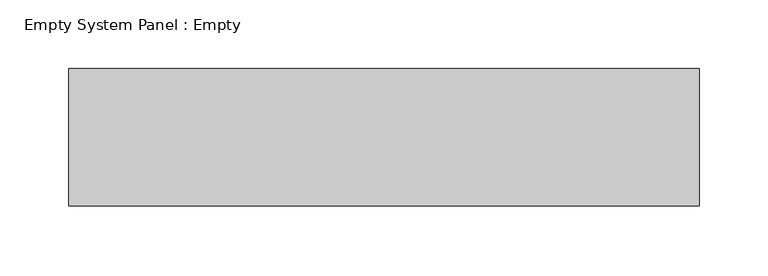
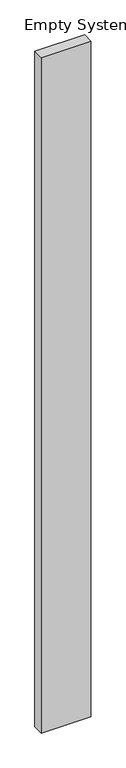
"""IFC4 building model written with IfcOpenShell, lengths in millimetres: plate geometry, Empty System Panel : Empty."""

from ifc_helpers import new_model, si_unit, origin, origin_with_axes, place, context, project, spatial, polyline, outline, extrude, source, transform, mapped, element, save


def empty_system_panel_empty_89ad5770(model_context):
    return source(origin(), model_context, "Body", "SweptSolid", [
        extrude(outline(polyline([(229.6046705, -50.0), (-229.6046705, -50.0), (-229.6046705, 50.0), (229.6046705, 50.0), (229.6046705, -50.0)])), origin_with_axes(), (0.0, 0.0, 1.0), 6608.109795),
    ])


if __name__ == "__main__":
    model = new_model("IFC4")
    model_context = context("Model", 3, world=origin())
    ifc_project = project(units=[si_unit("LENGTHUNIT", "METRE", prefix="MILLI")], contexts=[model_context])
    site = spatial("IfcSite", under=ifc_project)
    building = spatial("IfcBuilding", under=site)
    placement = place(None, origin())
    empty_system_panel_empty_shape = empty_system_panel_empty_89ad5770(model_context)
    element("IfcPlate", 1, ObjectType="Empty System Panel : Empty", at=placement, inside=building, context=model_context, shape_type="MappedRepresentation", body=[
        mapped(empty_system_panel_empty_shape, transform((0.0, 0.0, 0.0), x_axis=(1.0, 0.0, 0.0), y_axis=(0.0, 1.0, 0.0), z_axis=(0.0, 0.0, 1.0))),
    ])
    save(model, "model.ifc")
